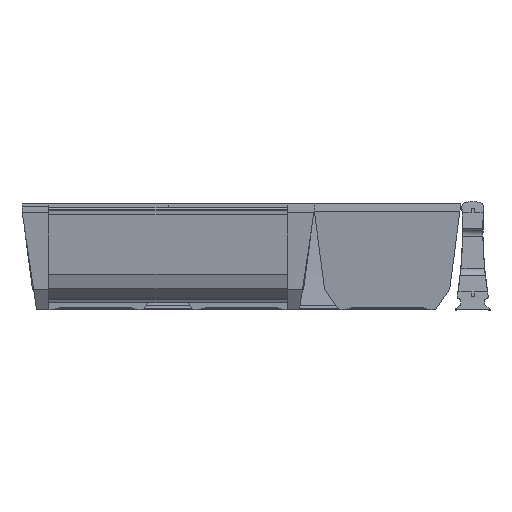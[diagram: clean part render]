
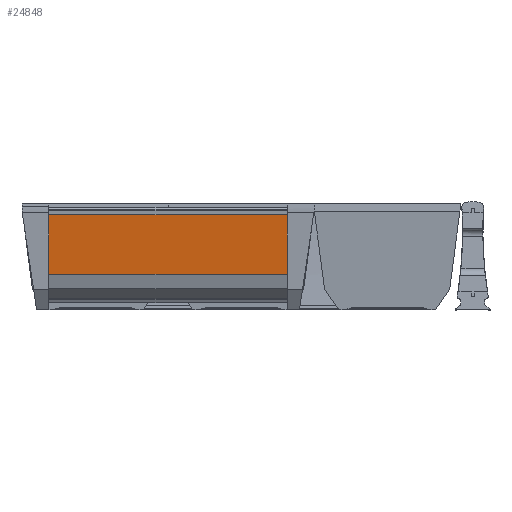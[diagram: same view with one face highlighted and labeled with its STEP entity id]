
A CAD part, front view. The second image highlights one B-rep face of the part: STEP entity #24848.
In plain terms, the highlighted planar face has unit normal (0, -0.991, -0.131).
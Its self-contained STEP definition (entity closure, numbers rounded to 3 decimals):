
#645 = CARTESIAN_POINT ( 'NONE',  ( 170., 2.926, 61.998 ) ) ;
#646 = DIRECTION ( 'NONE',  ( -1., 0., 0. ) ) ;
#4272 = VECTOR ( 'NONE', #13799, 1000. ) ;
#4287 = LINE ( 'NONE', #13798, #4272 ) ;
#4293 = LINE ( 'NONE', #13789, #4295 ) ;
#4295 = VECTOR ( 'NONE', #13790, 1000. ) ;
#4362 = LINE ( 'NONE', #13827, #4364 ) ;
#4364 = VECTOR ( 'NONE', #13828, 1000. ) ;
#6739 = CARTESIAN_POINT ( 'NONE',  ( 16.5, 2.926, 61.998 ) ) ;
#9463 = VERTEX_POINT ( 'NONE', #35411 ) ;
#9513 = VERTEX_POINT ( 'NONE', #33346 ) ;
#9663 = VERTEX_POINT ( 'NONE', #24741 ) ;
#9787 = VERTEX_POINT ( 'NONE', #6739 ) ;
#13071 = EDGE_CURVE ( 'NONE', #9513, #9463, #4293, .T. ) ;
#13075 = EDGE_CURVE ( 'NONE', #9663, #9787, #4287, .T. ) ;
#13089 = EDGE_CURVE ( 'NONE', #9463, #9663, #4362, .T. ) ;
#13789 = CARTESIAN_POINT ( 'NONE',  ( 164.5, 8.199, 21.942 ) ) ;
#13790 = DIRECTION ( 'NONE',  ( 0., 0.131, -0.991 ) ) ;
#13798 = CARTESIAN_POINT ( 'NONE',  ( 16.5, 8.199, 21.942 ) ) ;
#13799 = DIRECTION ( 'NONE',  ( 0., -0.131, 0.991 ) ) ;
#13827 = CARTESIAN_POINT ( 'NONE',  ( 170., 8.199, 21.942 ) ) ;
#13828 = DIRECTION ( 'NONE',  ( -1., 0., 0. ) ) ;
#21819 = ORIENTED_EDGE ( 'NONE', *, *, #34011, .T. ) ;
#21820 = ORIENTED_EDGE ( 'NONE', *, *, #13071, .F. ) ;
#21821 = ORIENTED_EDGE ( 'NONE', *, *, #13075, .F. ) ;
#21822 = ORIENTED_EDGE ( 'NONE', *, *, #13089, .F. ) ;
#22567 = EDGE_LOOP ( 'NONE', ( #21820, #21819, #21821, #21822 ) ) ;
#24741 = CARTESIAN_POINT ( 'NONE',  ( 16.5, 8.199, 21.942 ) ) ;
#24848 = ADVANCED_FACE ( 'NONE', ( #29416 ), #39067, .F. ) ;
#29416 = FACE_OUTER_BOUND ( 'NONE', #22567, .T. ) ;
#30793 = LINE ( 'NONE', #645, #30794 ) ;
#30794 = VECTOR ( 'NONE', #646, 1000. ) ;
#33346 = CARTESIAN_POINT ( 'NONE',  ( 164.5, 2.926, 61.998 ) ) ;
#34011 = EDGE_CURVE ( 'NONE', #9513, #9787, #30793, .T. ) ;
#35411 = CARTESIAN_POINT ( 'NONE',  ( 164.5, 8.199, 21.942 ) ) ;
#36524 = AXIS2_PLACEMENT_3D ( 'NONE', #39039, #39079, #39080 ) ;
#39039 = CARTESIAN_POINT ( 'NONE',  ( 170., 8.199, 21.942 ) ) ;
#39067 = PLANE ( 'NONE',  #36524 ) ;
#39079 = DIRECTION ( 'NONE',  ( 0., 0.991, 0.131 ) ) ;
#39080 = DIRECTION ( 'NONE',  ( 0., -0.131, 0.991 ) ) ;
